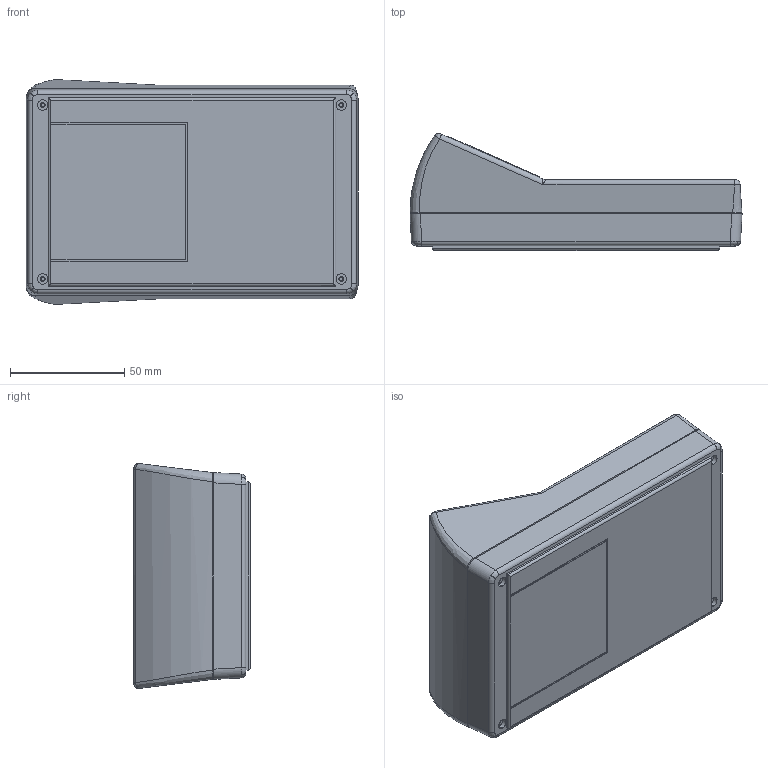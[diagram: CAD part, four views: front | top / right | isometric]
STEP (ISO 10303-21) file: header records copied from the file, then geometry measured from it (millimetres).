
FILE_DESCRIPTION (( 'STEP AP214' ), '1' );
FILE_NAME ('90-52-NO-R.STEP', '2020-10-15T16:35:01', ( 'Rudy' ), ( '' ), 'SwSTEP 2.0', 'SolidWorks 2014', '' );
FILE_SCHEMA (( 'AUTOMOTIVE_DESIGN' ));
Length unit declared in the file: millimetre
Products named in the file (5): 90-no bat-Shallow bottom; 90-52-NO-R; 90 PCB NO; 90-bessel; Top Angled LCD
Assembly tree (4 placements, depth 2):
  90-52-NO-R
    90-no bat-Shallow bottom
    Top Angled LCD
    90-bessel
    90 PCB NO
Bounding box: 145.5 x 51.22 x 98.54 mm (x, y, z)
Volume: 150188 mm3; surface area: 114546.1 mm2
Topology: 4 solids, 4 shells, 268 faces, 647 edges, 419 vertices
Faces by surface type: plane 154, cylinder 62, cone 32, bspline 20
Entity records: 8986 total; most frequent: CARTESIAN_POINT 2642, ORIENTED_EDGE 1290, DIRECTION 1221, EDGE_CURVE 645, VERTEX_POINT 419, AXIS2_PLACEMENT_3D 412, VECTOR 397, LINE 397
